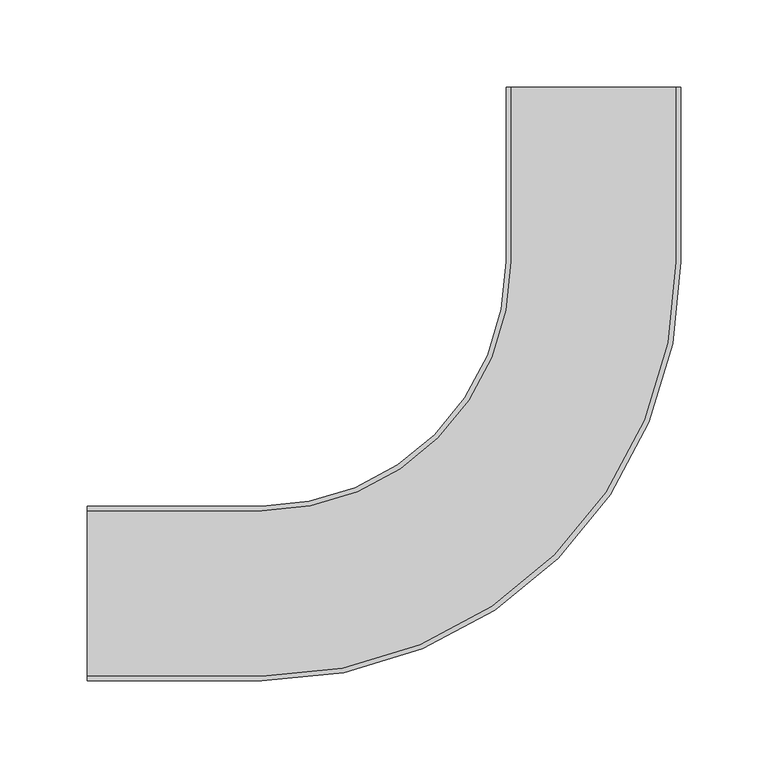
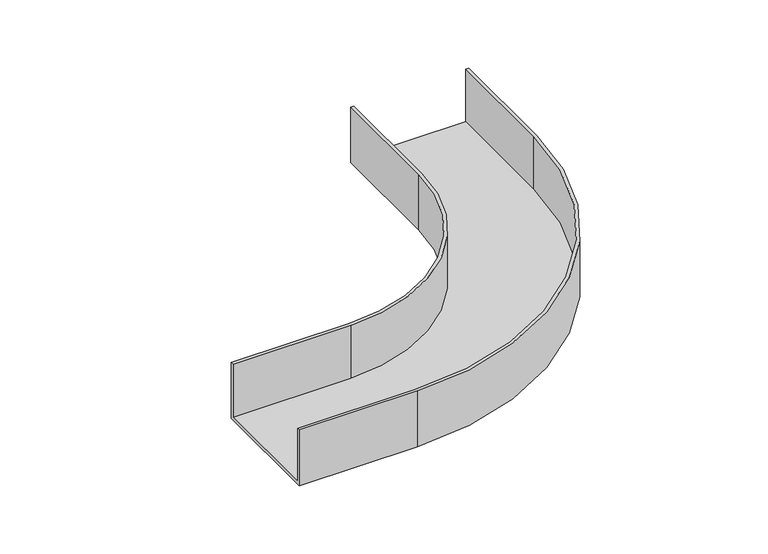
"""IFC4 building model written with IfcOpenShell, lengths in millimetres: cable carrier fitting geometry, BAKS_Elbow_KKZ : KKZC/KKZMC...H50."""

from ifc_helpers import new_model, si_unit, frame, origin, place, context, project, spatial, polyline, circle_curve, source, transform, mapped, element, save
from ifc_brep_helpers import plane_surface, cylinder_surface, revolved_surface, advanced_brep


def cable_carrier_fitting_f591b558(model_context):
    return source(origin(), model_context, "Body", "AdvancedBrep", [
        advanced_brep(
        [(-290.0, -50.0, -25.0), (-290.0, -50.0, 25.0), (-290.0, -47.46, 25.0), (-290.0, -47.46, -22.46), (-290.0, 47.46, -22.46), (-290.0, 47.46, 25.0), (-290.0, 50.0, 25.0), (-290.0, 50.0, -25.0), (50.0, 290.0, -25.0), (-50.0, 290.0, -25.0), (-50.0, 290.0, 25.0), (-47.46, 290.0, 25.0), (-47.46, 290.0, -22.46), (47.46, 290.0, -22.46), (47.46, 290.0, 25.0), (50.0, 290.0, 25.0), (-190.0, -50.0, -25.0), (-190.0, -50.0, 25.0), (50.0, 190.0, 25.0), (47.46, 190.0, 25.0), (-190.0, -47.46, 25.0), (-190.0, -47.46, -22.46), (47.46, 190.0, -22.46), (-47.46, 190.0, -22.46), (-190.0, 47.46, -22.46), (-190.0, 47.46, 25.0), (-47.46, 190.0, 25.0), (-50.0, 190.0, 25.0), (-190.0, 50.0, 25.0), (-190.0, 50.0, -25.0), (-50.0, 190.0, -25.0), (50.0, 190.0, -25.0)],
        [
            (0, 1),
            (1, 2),
            (2, 3),
            (3, 4),
            (4, 5),
            (5, 6),
            (6, 7),
            (7, 0),
            (8, 9),
            (9, 10),
            (10, 11),
            (11, 12),
            (12, 13),
            (13, 14),
            (14, 15),
            (15, 8),
            (0, 16),
            (16, 17),
            (17, 1),
            (17, 18, circle_curve(frame((-190.0, 190.0, 25.0), z_axis=(0.0, 0.0, 1.0), x_axis=(0.0, -1.0, 0.0)), 240.0)),
            (18, 15),
            (14, 19),
            (19, 20, circle_curve(frame((-190.0, 190.0, 25.0), z_axis=(0.0, 0.0, -1.0), x_axis=(0.0, -1.0, 0.0)), 237.46)),
            (20, 2),
            (20, 21),
            (21, 3),
            (21, 22, circle_curve(frame((-190.0, 190.0, -22.46), z_axis=(0.0, 0.0, 1.0), x_axis=(0.0, -1.0, 0.0)), 237.46)),
            (22, 13),
            (12, 23),
            (23, 24, circle_curve(frame((-190.0, 190.0, -22.46), z_axis=(0.0, 0.0, -1.0), x_axis=(0.0, -1.0, 0.0)), 142.54)),
            (24, 4),
            (24, 25),
            (25, 5),
            (25, 26, circle_curve(frame((-190.0, 190.0, 25.0), z_axis=(0.0, 0.0, 1.0), x_axis=(0.0, -1.0, 0.0)), 142.54)),
            (26, 11),
            (10, 27),
            (27, 28, circle_curve(frame((-190.0, 190.0, 25.0), z_axis=(0.0, 0.0, -1.0), x_axis=(0.0, -1.0, 0.0)), 140.0)),
            (28, 6),
            (28, 29),
            (29, 7),
            (29, 30, circle_curve(frame((-190.0, 190.0, -25.0), z_axis=(0.0, 0.0, 1.0), x_axis=(0.0, -1.0, 0.0)), 140.0)),
            (30, 9),
            (8, 31),
            (31, 16, circle_curve(frame((-190.0, 190.0, -25.0), z_axis=(0.0, 0.0, -1.0), x_axis=(0.0, -1.0, 0.0)), 240.0)),
            (31, 18),
            (19, 22),
            (23, 26),
            (27, 30),
        ],
        [
            plane_surface(frame((-290.0, 0.0, 0.0), z_axis=(-1.0, 0.0, 0.0), x_axis=(0.0, 0.0, 1.0))),
            plane_surface(frame((0.0, 290.0, 0.0), z_axis=(0.0, 1.0, 0.0), x_axis=(0.0, 0.0, 1.0))),
            plane_surface(frame((-290.0, -50.0, -25.0), z_axis=(0.0, -1.0, 0.0), x_axis=(1.0, 0.0, 0.0))),
            plane_surface(frame((-290.0, -50.0, 25.0), z_axis=(0.0, 0.0, 1.0), x_axis=(1.0, 0.0, 0.0))),
            plane_surface(frame((-290.0, -47.46, 25.0), z_axis=(0.0, 1.0, 0.0), x_axis=(1.0, 0.0, 0.0))),
            plane_surface(frame((-290.0, -47.46, -22.46), z_axis=(0.0, 0.0, 1.0), x_axis=(1.0, 0.0, 0.0))),
            plane_surface(frame((-290.0, 47.46, -22.46), z_axis=(0.0, -1.0, 0.0), x_axis=(1.0, 0.0, 0.0))),
            plane_surface(frame((-290.0, 47.46, 25.0), z_axis=(0.0, 0.0, 1.0), x_axis=(1.0, 0.0, 0.0))),
            plane_surface(frame((-290.0, 50.0, 25.0), z_axis=(0.0, 1.0, 0.0), x_axis=(1.0, 0.0, 0.0))),
            plane_surface(frame((-290.0, 50.0, -25.0), z_axis=(0.0, 0.0, -1.0), x_axis=(1.0, 0.0, 0.0))),
            cylinder_surface(frame((-190.0, 190.0, 0.0), z_axis=(0.0, 0.0, 1.0), x_axis=(0.0, -1.0, 0.0)), 240.0),
            revolved_surface(polyline([(-190.0, -47.46000000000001, 25.0), (-190.0, -47.46000000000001, -22.46)]), (-190.0, 190.0, 0.0), (0.0, 0.0, 1.0)),
            cylinder_surface(frame((-190.0, 190.0, 0.0), z_axis=(0.0, 0.0, 1.0), x_axis=(0.0, -1.0, 0.0)), 142.54),
            revolved_surface(polyline([(-190.0, 50.0, 25.0), (-190.0, 50.0, -25.0)]), (-190.0, 190.0, 0.0), (0.0, 0.0, 1.0)),
            plane_surface(frame((50.0, 190.0, -25.0), z_axis=(1.0, 0.0, 0.0), x_axis=(0.0, 1.0, 0.0))),
            plane_surface(frame((47.46, 190.0, 25.0), z_axis=(-1.0, 0.0, 0.0), x_axis=(0.0, 1.0, 0.0))),
            plane_surface(frame((-47.46, 190.0, -22.46), z_axis=(1.0, 0.0, 0.0), x_axis=(0.0, 1.0, 0.0))),
            plane_surface(frame((-50.0, 190.0, 25.0), z_axis=(-1.0, 0.0, 0.0), x_axis=(0.0, 1.0, 0.0))),
        ],
        [
            (0, [[1, 2, 3, 4, 5, 6, 7, 8]]),
            (1, [[9, 10, 11, 12, 13, 14, 15, 16]]),
            (2, [[-1, 17, 18, 19]]),
            (3, [[-2, -19, 20, 21, -15, 22, 23, 24]]),
            (4, [[-3, -24, 25, 26]]),
            (5, [[-4, -26, 27, 28, -13, 29, 30, 31]]),
            (6, [[-5, -31, 32, 33]]),
            (7, [[-6, -33, 34, 35, -11, 36, 37, 38]]),
            (8, [[-7, -38, 39, 40]]),
            (9, [[-8, -40, 41, 42, -9, 43, 44, -17]]),
            (10, [[-20, -18, -44, 45]]),
            (11, [[-27, -25, -23, 46]]),
            (12, [[-34, -32, -30, 47]]),
            (13, [[-41, -39, -37, 48]]),
            (14, [[-45, -43, -16, -21]]),
            (15, [[-46, -22, -14, -28]]),
            (16, [[-47, -29, -12, -35]]),
            (17, [[-48, -36, -10, -42]]),
        ],
    ),
    ])


if __name__ == "__main__":
    model = new_model("IFC4")
    model_context = context("Model", 3, world=origin())
    ifc_project = project(units=[si_unit("LENGTHUNIT", "METRE", prefix="MILLI")], contexts=[model_context])
    site = spatial("IfcSite", under=ifc_project)
    building = spatial("IfcBuilding", under=site)
    placement = place(None, origin())
    cable_carrier_fitting_shape = cable_carrier_fitting_f591b558(model_context)
    element("IfcCableCarrierFitting", 1, ObjectType="BAKS_Elbow_KKZ : KKZC/KKZMC...H50", at=placement, inside=building, context=model_context, shape_type="MappedRepresentation", body=[
        mapped(cable_carrier_fitting_shape, transform((0.0, 0.0, 0.0), x_axis=(1.0, 0.0, 0.0), y_axis=(0.0, 1.0, 0.0), z_axis=(0.0, 0.0, 1.0))),
    ])
    save(model, "model.ifc")
